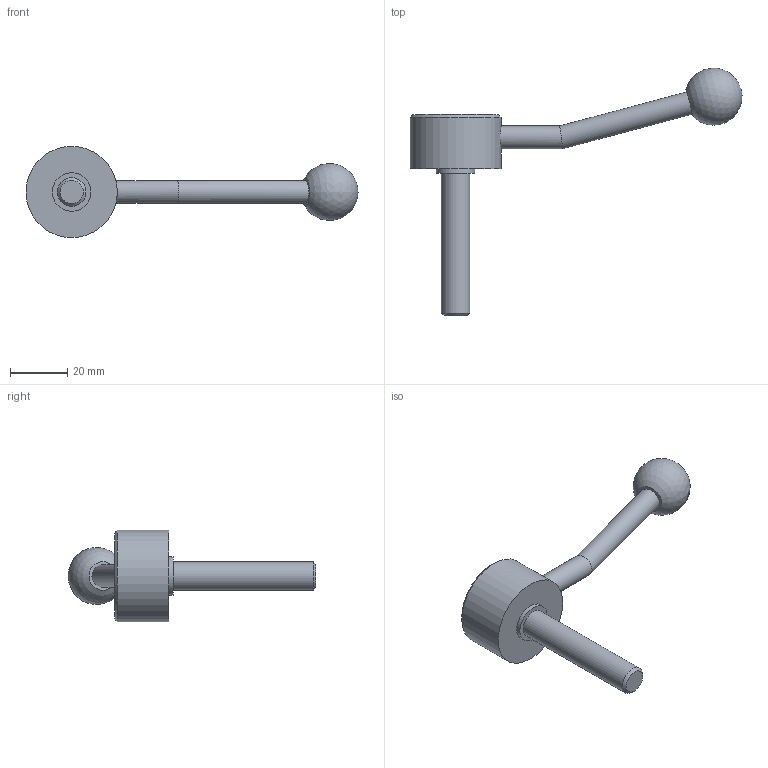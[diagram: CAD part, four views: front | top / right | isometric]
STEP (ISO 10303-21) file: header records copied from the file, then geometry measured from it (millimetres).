
FILE_DESCRIPTION( ( 'STEP AP203' ), '1' );
FILE_NAME( 'C:/Temp/Ganter_Step_05_03_2020/data/2_1/gn_125/gn_125_ms/gn_125_ms_e/Flat Adjustable Lever GN 125-32-M10-50-E.stp', '2020-03-05T11:00:56', ( 'License CC BY-ND 4.0' ), ( 'CADENAS' ), ' ', 'PARTsolutions', ' ' );
FILE_SCHEMA( ( 'CONFIG_CONTROL_DESIGN' ) );
Length unit declared in the file: millimetre
Products named in the file (1): _Flat Adjustable Lever GN 125-32-M10-50-E
Bounding box: 116.33 x 86.72 x 32 mm (x, y, z)
Volume: 26802.4 mm3; surface area: 7946.9 mm2
Topology: 1 solids, 1 shells, 15 faces, 26 edges, 17 vertices
Faces by surface type: cylinder 6, plane 6, cone 2, sphere 1
Full cylindrical faces by diameter (mm): 8 x2, 10 x1, 13.5 x1, 22 x1, 32 x1
Entity records: 404 total; most frequent: CARTESIAN_POINT 110, DIRECTION 58, AXIS2_PLACEMENT_3D 29, EDGE_LOOP 28, ORIENTED_EDGE 28, FACE_OUTER_BOUND 21, ADVANCED_FACE 15, VERTEX_POINT 15
